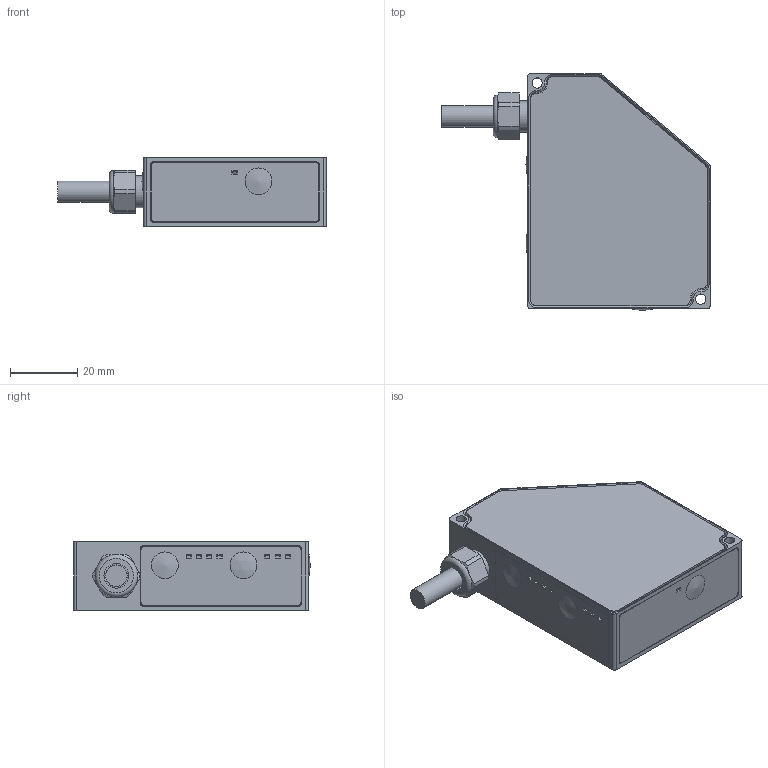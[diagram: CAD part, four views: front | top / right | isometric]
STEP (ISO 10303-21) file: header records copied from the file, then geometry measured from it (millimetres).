
FILE_DESCRIPTION((''),'2;1');
FILE_NAME('T:\Project\Acuity\AR200\MECH200\AR200.stp','2009-11-05T12:07:20',('msouthwood'),(''),'Autodesk Inventor 2008','Autodesk Inventor 2008','');
FILE_SCHEMA(('AUTOMOTIVE_DESIGN { 1 0 10303 214 1 1 1 1 }'));
Length unit declared in the file: inch
Products named in the file (10): AR200; MCP694212; MCP520001; MTP214201-1; MTP214201-2; QWD121001; MSG200010; MSG200011; MSG200012; OUTER CABLE
Assembly tree (9 placements, depth 2):
  AR200
    MCP694212
    MCP520001
    MTP214201-1
    MTP214201-2
    QWD121001
    MSG200010
    MSG200011
    MSG200012
    OUTER CABLE
Bounding box: 79.76 x 70.39 x 20.45 mm (x, y, z)
Volume: 21781.3 mm3; surface area: 30898 mm2
Topology: 9 solids, 9 shells, 387 faces, 1028 edges, 678 vertices
Faces by surface type: plane 208, cylinder 122, cone 34, bspline 21, sphere 1, torus 1
Full cylindrical faces by diameter (mm): 1.588 x7, 1.6 x1, 3.099 x2, 5.944 x3, 6.35 x1, 6.477 x1, 6.756 x2, 7.366 x1, 7.95 x3, 8.001 x1, 8.026 x1, 8.128 x1, 9.398 x1, 9.652 x1, 11.684 x1
Entity records: 12370 total; most frequent: CARTESIAN_POINT 2503, DIRECTION 2016, ORIENTED_EDGE 1926, EDGE_CURVE 963, AXIS2_PLACEMENT_3D 713, VERTEX_POINT 659, VECTOR 590, LINE 590
